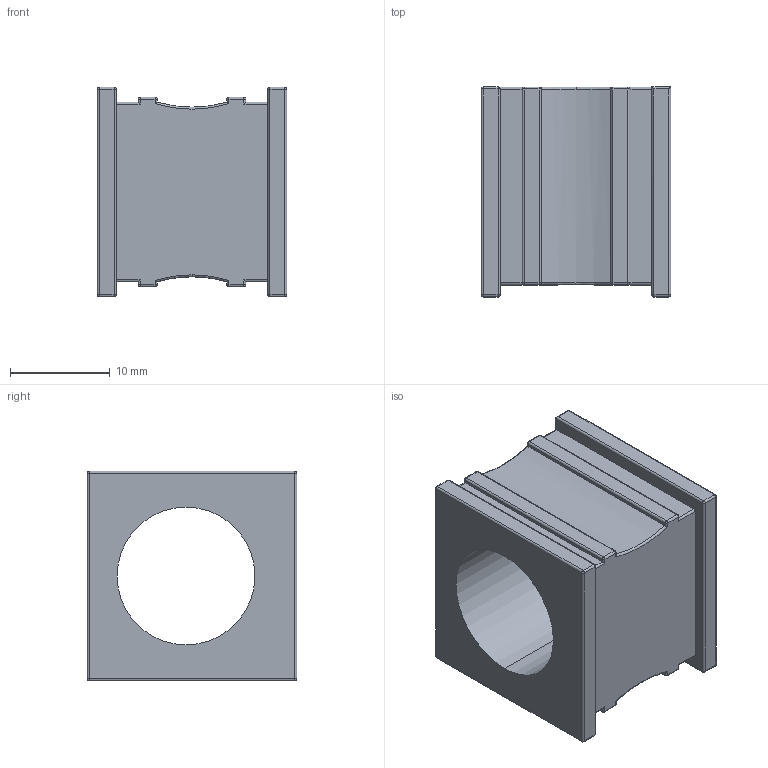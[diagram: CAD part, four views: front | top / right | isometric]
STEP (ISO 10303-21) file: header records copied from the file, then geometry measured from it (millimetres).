
FILE_DESCRIPTION (( 'STEP AP203' ), '1' );
FILE_NAME ('041214 KT14.STEP', '2023-03-07T05:17:42', ( '' ), ( '' ), 'SwSTEP 2.0', 'SolidWorks 2016', '' );
FILE_SCHEMA (( 'CONFIG_CONTROL_DESIGN' ));
Length unit declared in the file: millimetre
Products named in the file (1): 041214 KT14
Bounding box: 19 x 21 x 21 mm (x, y, z)
Volume: 4219.1 mm3; surface area: 3091.2 mm2
Topology: 1 solids, 1 shells, 161 faces, 385 edges, 199 vertices
Faces by surface type: cylinder 71, plane 51, bspline 39
Entity records: 4905 total; most frequent: CARTESIAN_POINT 1489, ORIENTED_EDGE 708, DIRECTION 682, EDGE_CURVE 354, AXIS2_PLACEMENT_3D 238, LINE 206, VECTOR 206, VERTEX_POINT 199
